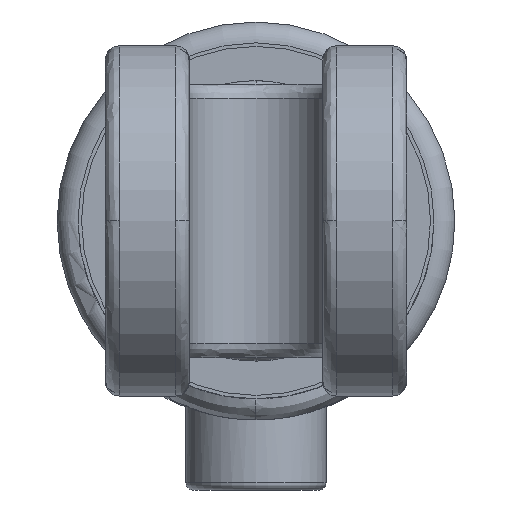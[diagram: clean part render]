
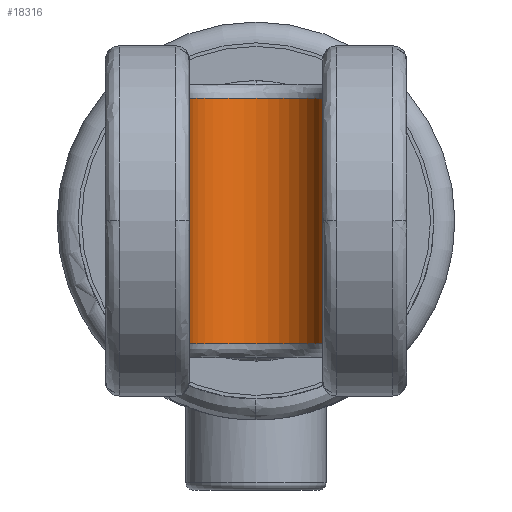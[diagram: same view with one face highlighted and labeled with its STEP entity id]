
A CAD part, left-side view. The second image highlights one B-rep face of the part: STEP entity #18316.
In plain terms, the highlighted cylindrical face has radius 9.5 mm (diameter 19 mm), a partial arc.
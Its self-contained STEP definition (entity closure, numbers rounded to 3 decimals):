
#105 = CIRCLE ( 'NONE', #2233, 9.5 ) ;
#383 = DIRECTION ( 'NONE',  ( 0., 0., 1. ) ) ;
#1196 = AXIS2_PLACEMENT_3D ( 'NONE', #9763, #22543, #11609 ) ;
#2233 = AXIS2_PLACEMENT_3D ( 'NONE', #6802, #19595, #8612 ) ;
#2283 = AXIS2_PLACEMENT_3D ( 'NONE', #10887, #383, #5077 ) ;
#2983 = DIRECTION ( 'NONE',  ( 0., 0., -1. ) ) ;
#3622 = EDGE_LOOP ( 'NONE', ( #22030, #3742, #18364, #14664 ) ) ;
#3742 = ORIENTED_EDGE ( 'NONE', *, *, #5423, .F. ) ;
#4608 = DIRECTION ( 'NONE',  ( 0., 0., 1. ) ) ;
#4754 = CARTESIAN_POINT ( 'NONE',  ( 0.293, -17.446, -17.5 ) ) ;
#5077 = DIRECTION ( 'NONE',  ( 1., 0., 0. ) ) ;
#5423 = EDGE_CURVE ( 'NONE', #12896, #8151, #105, .T. ) ;
#6362 = VECTOR ( 'NONE', #4608, 1000. ) ;
#6656 = CARTESIAN_POINT ( 'NONE',  ( 0.293, 1.554, -17.5 ) ) ;
#6671 = CIRCLE ( 'NONE', #1196, 9.5 ) ;
#6802 = CARTESIAN_POINT ( 'NONE',  ( 0.293, -7.946, -17.5 ) ) ;
#8134 = EDGE_CURVE ( 'NONE', #15061, #12896, #9552, .T. ) ;
#8151 = VERTEX_POINT ( 'NONE', #4754 ) ;
#8612 = DIRECTION ( 'NONE',  ( 1., 0., 0. ) ) ;
#9552 = LINE ( 'NONE', #10253, #18179 ) ;
#9763 = CARTESIAN_POINT ( 'NONE',  ( 0.293, -7.946, 17.5 ) ) ;
#10253 = CARTESIAN_POINT ( 'NONE',  ( 0.293, 1.554, -19.5 ) ) ;
#10887 = CARTESIAN_POINT ( 'NONE',  ( 0.293, -7.946, -19.5 ) ) ;
#11609 = DIRECTION ( 'NONE',  ( 1., 0., 0. ) ) ;
#12084 = CYLINDRICAL_SURFACE ( 'NONE', #2283, 9.5 ) ;
#12656 = FACE_OUTER_BOUND ( 'NONE', #3622, .T. ) ;
#12896 = VERTEX_POINT ( 'NONE', #6656 ) ;
#14664 = ORIENTED_EDGE ( 'NONE', *, *, #16638, .F. ) ;
#15061 = VERTEX_POINT ( 'NONE', #18571 ) ;
#16638 = EDGE_CURVE ( 'NONE', #20699, #15061, #6671, .T. ) ;
#17714 = EDGE_CURVE ( 'NONE', #8151, #20699, #20929, .T. ) ;
#18179 = VECTOR ( 'NONE', #2983, 1000. ) ;
#18316 = ADVANCED_FACE ( 'NONE', ( #12656 ), #12084, .F. ) ;
#18364 = ORIENTED_EDGE ( 'NONE', *, *, #8134, .F. ) ;
#18571 = CARTESIAN_POINT ( 'NONE',  ( 0.293, 1.554, 17.5 ) ) ;
#19595 = DIRECTION ( 'NONE',  ( 0., 0., 1. ) ) ;
#20699 = VERTEX_POINT ( 'NONE', #20700 ) ;
#20700 = CARTESIAN_POINT ( 'NONE',  ( 0.293, -17.446, 17.5 ) ) ;
#20929 = LINE ( 'NONE', #21143, #6362 ) ;
#21143 = CARTESIAN_POINT ( 'NONE',  ( 0.293, -17.446, -19.5 ) ) ;
#22030 = ORIENTED_EDGE ( 'NONE', *, *, #17714, .F. ) ;
#22543 = DIRECTION ( 'NONE',  ( 0., 0., -1. ) ) ;
